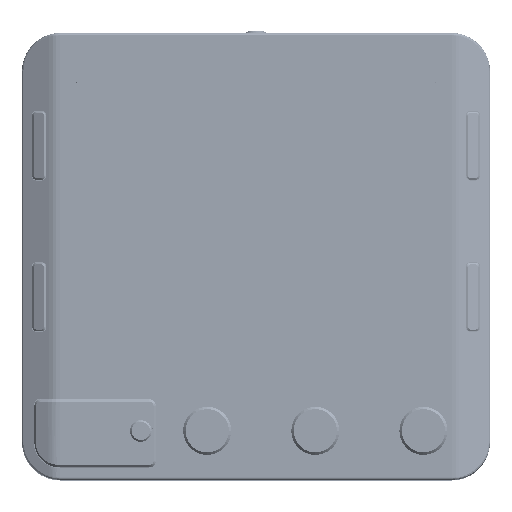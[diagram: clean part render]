
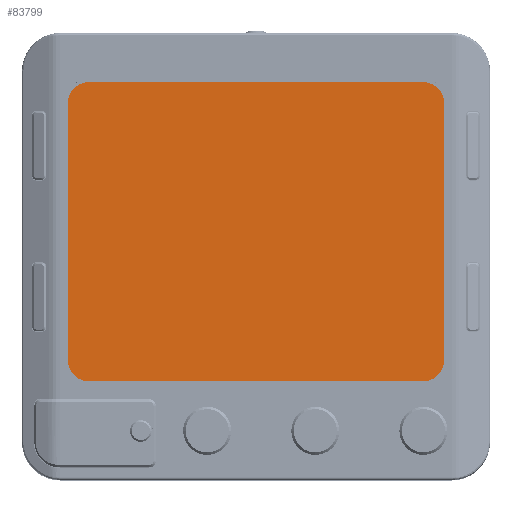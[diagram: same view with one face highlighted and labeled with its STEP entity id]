
A CAD part, top view. The second image highlights one B-rep face of the part: STEP entity #83799.
In plain terms, the highlighted planar face has unit normal (0, 0, 1).
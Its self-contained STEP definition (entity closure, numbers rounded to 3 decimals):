
#1181 = ORIENTED_EDGE ( 'NONE', *, *, #23768, .F. ) ;
#2609 = CARTESIAN_POINT ( 'NONE',  ( -34.7, -23.71, 42.765 ) ) ;
#4790 = DIRECTION ( 'NONE',  ( 0., -1., 0. ) ) ;
#7724 = CIRCLE ( 'NONE', #9225, 4.5 ) ;
#9171 = LINE ( 'NONE', #123789, #172386 ) ;
#9225 = AXIS2_PLACEMENT_3D ( 'NONE', #111529, #68389, #14088 ) ;
#12200 = DIRECTION ( 'NONE',  ( 1., 0., 0. ) ) ;
#12872 = CARTESIAN_POINT ( 'NONE',  ( 34.7, -28.21, 42.765 ) ) ;
#14088 = DIRECTION ( 'NONE',  ( -1., 0., 0. ) ) ;
#18337 = ORIENTED_EDGE ( 'NONE', *, *, #36268, .F. ) ;
#23768 = EDGE_CURVE ( 'NONE', #139568, #172440, #77486, .T. ) ;
#27629 = DIRECTION ( 'NONE',  ( 0., 1., 0. ) ) ;
#27759 = DIRECTION ( 'NONE',  ( -1., 0., 0. ) ) ;
#31223 = CARTESIAN_POINT ( 'NONE',  ( -39.2, 34.09, 42.765 ) ) ;
#36268 = EDGE_CURVE ( 'NONE', #87322, #61080, #99860, .T. ) ;
#39338 = ORIENTED_EDGE ( 'NONE', *, *, #179670, .T. ) ;
#40832 = DIRECTION ( 'NONE',  ( 0., 0., -1. ) ) ;
#43626 = EDGE_LOOP ( 'NONE', ( #49581, #136031, #98245, #18337, #39338, #1181, #80075, #178566 ) ) ;
#49581 = ORIENTED_EDGE ( 'NONE', *, *, #130678, .T. ) ;
#49920 = VECTOR ( 'NONE', #142036, 1000. ) ;
#51529 = VECTOR ( 'NONE', #106943, 1000. ) ;
#51645 = CARTESIAN_POINT ( 'NONE',  ( -39.2, -28.21, 42.765 ) ) ;
#52290 = CARTESIAN_POINT ( 'NONE',  ( 39.2, 29.59, 42.765 ) ) ;
#56919 = CARTESIAN_POINT ( 'NONE',  ( -39.2, 34.09, 42.765 ) ) ;
#60332 = VERTEX_POINT ( 'NONE', #12872 ) ;
#61080 = VERTEX_POINT ( 'NONE', #103669 ) ;
#62257 = DIRECTION ( 'NONE',  ( -1., 0., 0. ) ) ;
#65263 = PLANE ( 'NONE',  #148730 ) ;
#67596 = CARTESIAN_POINT ( 'NONE',  ( -34.7, 29.59, 42.765 ) ) ;
#68389 = DIRECTION ( 'NONE',  ( 0., 0., -1. ) ) ;
#75938 = EDGE_CURVE ( 'NONE', #133631, #94894, #7724, .T. ) ;
#76194 = LINE ( 'NONE', #31223, #152421 ) ;
#77486 = CIRCLE ( 'NONE', #123928, 4.5 ) ;
#80075 = ORIENTED_EDGE ( 'NONE', *, *, #96107, .T. ) ;
#81678 = CARTESIAN_POINT ( 'NONE',  ( -39.2, -28.21, 42.765 ) ) ;
#83799 = ADVANCED_FACE ( 'NONE', ( #105480 ), #65263, .T. ) ;
#84326 = VERTEX_POINT ( 'NONE', #180243 ) ;
#84431 = LINE ( 'NONE', #51645, #51529 ) ;
#85757 = CARTESIAN_POINT ( 'NONE',  ( -39.2, -23.71, 42.765 ) ) ;
#87322 = VERTEX_POINT ( 'NONE', #123842 ) ;
#91052 = AXIS2_PLACEMENT_3D ( 'NONE', #173981, #117588, #62257 ) ;
#93838 = DIRECTION ( 'NONE',  ( 0., 0., 1. ) ) ;
#94894 = VERTEX_POINT ( 'NONE', #52290 ) ;
#96107 = EDGE_CURVE ( 'NONE', #139568, #60332, #84431, .T. ) ;
#98245 = ORIENTED_EDGE ( 'NONE', *, *, #110733, .T. ) ;
#99860 = CIRCLE ( 'NONE', #139142, 4.5 ) ;
#103113 = EDGE_CURVE ( 'NONE', #84326, #60332, #150208, .T. ) ;
#103669 = CARTESIAN_POINT ( 'NONE',  ( -34.7, 34.09, 42.765 ) ) ;
#105480 = FACE_OUTER_BOUND ( 'NONE', #43626, .T. ) ;
#106943 = DIRECTION ( 'NONE',  ( 1., 0., 0. ) ) ;
#110733 = EDGE_CURVE ( 'NONE', #133631, #61080, #141350, .T. ) ;
#111529 = CARTESIAN_POINT ( 'NONE',  ( 34.7, 29.59, 42.765 ) ) ;
#117588 = DIRECTION ( 'NONE',  ( 0., 0., -1. ) ) ;
#123789 = CARTESIAN_POINT ( 'NONE',  ( 39.2, 34.09, 42.765 ) ) ;
#123842 = CARTESIAN_POINT ( 'NONE',  ( -39.2, 29.59, 42.765 ) ) ;
#123928 = AXIS2_PLACEMENT_3D ( 'NONE', #2609, #126932, #27759 ) ;
#125347 = CARTESIAN_POINT ( 'NONE',  ( 34.7, 34.09, 42.765 ) ) ;
#126932 = DIRECTION ( 'NONE',  ( 0., 0., -1. ) ) ;
#130678 = EDGE_CURVE ( 'NONE', #84326, #94894, #9171, .T. ) ;
#133631 = VERTEX_POINT ( 'NONE', #125347 ) ;
#136031 = ORIENTED_EDGE ( 'NONE', *, *, #75938, .F. ) ;
#138169 = DIRECTION ( 'NONE',  ( -1., 0., 0. ) ) ;
#139142 = AXIS2_PLACEMENT_3D ( 'NONE', #67596, #40832, #138169 ) ;
#139568 = VERTEX_POINT ( 'NONE', #178961 ) ;
#141350 = LINE ( 'NONE', #56919, #49920 ) ;
#142036 = DIRECTION ( 'NONE',  ( -1., 0., 0. ) ) ;
#148730 = AXIS2_PLACEMENT_3D ( 'NONE', #81678, #93838, #12200 ) ;
#150208 = CIRCLE ( 'NONE', #91052, 4.5 ) ;
#152421 = VECTOR ( 'NONE', #4790, 1000. ) ;
#172386 = VECTOR ( 'NONE', #27629, 1000. ) ;
#172440 = VERTEX_POINT ( 'NONE', #85757 ) ;
#173981 = CARTESIAN_POINT ( 'NONE',  ( 34.7, -23.71, 42.765 ) ) ;
#178566 = ORIENTED_EDGE ( 'NONE', *, *, #103113, .F. ) ;
#178961 = CARTESIAN_POINT ( 'NONE',  ( -34.7, -28.21, 42.765 ) ) ;
#179670 = EDGE_CURVE ( 'NONE', #87322, #172440, #76194, .T. ) ;
#180243 = CARTESIAN_POINT ( 'NONE',  ( 39.2, -23.71, 42.765 ) ) ;
